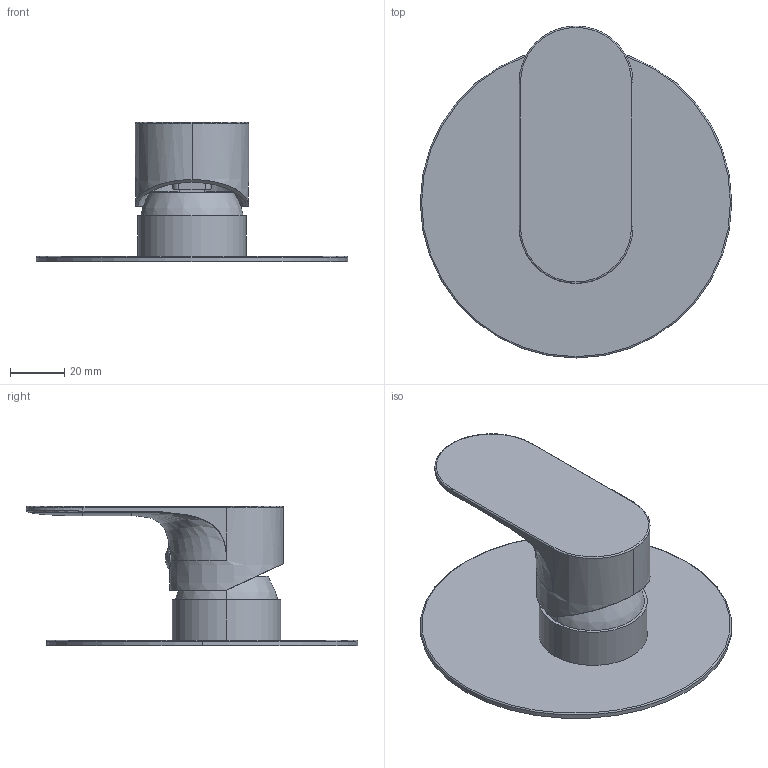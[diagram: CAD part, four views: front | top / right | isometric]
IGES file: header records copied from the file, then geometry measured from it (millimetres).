
Start section:  PTC IGES file: 64416.igs
Global section: file name: 64416.igs; native system: Creo Parametric by PTC Inc.; preprocessor: 2022014; author: carloff; organization: Unknown; date: 20250522.131331; units: millimetre
Bounding box: 115 x 122.5 x 51.5 mm (x, y, z)
Surface area: 40237.8 mm2 (no closed solid volume)
Topology: 0 solids, 0 shells, 184 faces, 968 edges, 966 vertices
Faces by surface type: bspline 97, revolution 85, extrusion 2
